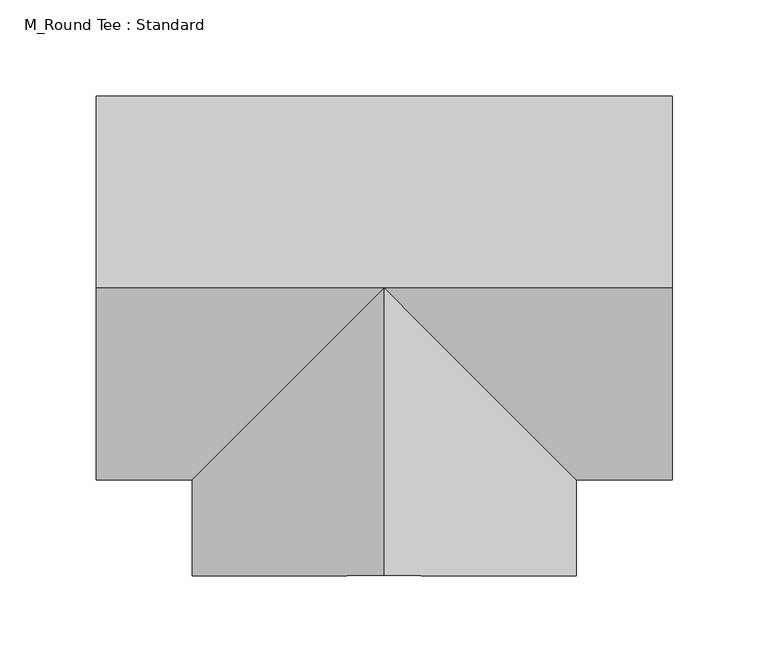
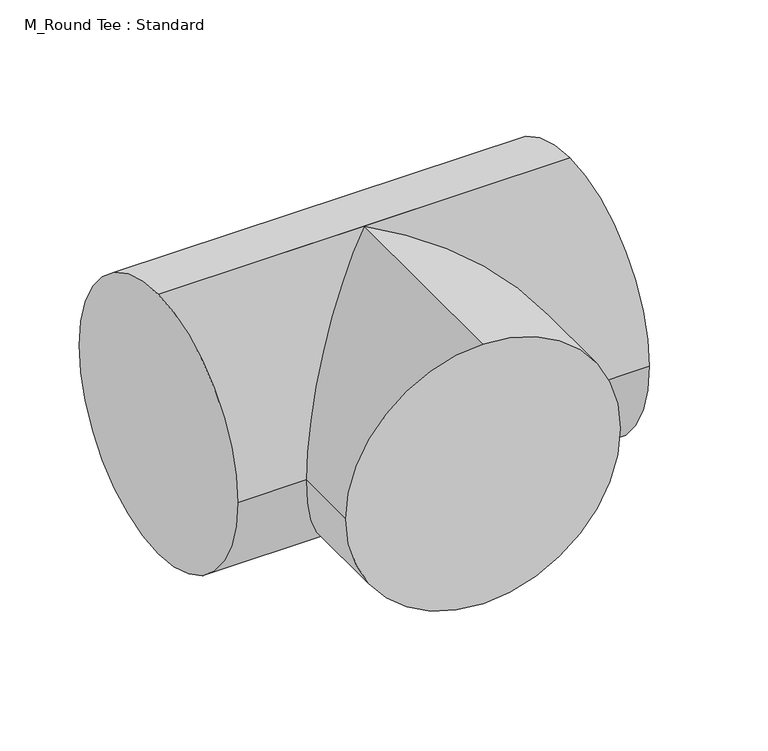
"""IFC4 building model written with IfcOpenShell, lengths in millimetres: duct fitting geometry, M_Round Tee : Standard."""

from ifc_helpers import new_model, si_unit, frame, origin, place, context, project, spatial, circle_curve, ellipse_curve, source, transform, mapped, element, save
from ifc_brep_helpers import plane_surface, cylinder_surface, advanced_brep


def m_round_tee_standard_d0ec91cd(model_context):
    return source(origin(), model_context, "Body", "AdvancedBrep", [
        advanced_brep(
        [(-150.0, 0.0, 100.0), (-150.0, 100.0, 0.0), (-150.0, 0.0, -100.0), (-150.0, -100.0, 0.0), (150.0, 0.0, 100.0), (150.0, -100.0, 0.0), (150.0, 0.0, -100.0), (150.0, 100.0, 0.0), (0.0, 0.0, 100.0), (0.0, 0.0, -100.0), (-100.0, -100.0, 0.0), (100.0, -100.0, 0.0), (0.0, -150.0, 100.0), (-100.0, -150.0, 0.0), (0.0, -150.0, -100.0), (100.0, -150.0, 0.0)],
        [
            (0, 1, circle_curve(frame((-150.0, 0.0, 0.0), z_axis=(-1.0, 0.0, 0.0), x_axis=(0.0, 1.0, 0.0)), 100.0)),
            (1, 2, circle_curve(frame((-150.0, 0.0, 0.0), z_axis=(-1.0, 0.0, 0.0), x_axis=(0.0, 1.0, 0.0)), 100.0)),
            (2, 3, circle_curve(frame((-150.0, 0.0, 0.0), z_axis=(-1.0, 0.0, 0.0), x_axis=(0.0, 1.0, 0.0)), 100.0)),
            (3, 0, circle_curve(frame((-150.0, 0.0, 0.0), z_axis=(-1.0, 0.0, 0.0), x_axis=(0.0, 1.0, 0.0)), 100.0)),
            (4, 5, circle_curve(frame((150.0, 0.0, 0.0), z_axis=(1.0, 0.0, 0.0), x_axis=(0.0, 1.0, 0.0)), 100.0)),
            (5, 6, circle_curve(frame((150.0, 0.0, 0.0), z_axis=(1.0, 0.0, 0.0), x_axis=(0.0, 1.0, 0.0)), 100.0)),
            (6, 7, circle_curve(frame((150.0, 0.0, 0.0), z_axis=(1.0, 0.0, 0.0), x_axis=(0.0, 1.0, 0.0)), 100.0)),
            (7, 4, circle_curve(frame((150.0, 0.0, 0.0), z_axis=(1.0, 0.0, 0.0), x_axis=(0.0, 1.0, 0.0)), 100.0)),
            (0, 8),
            (8, 4),
            (7, 1),
            (6, 9),
            (9, 2),
            (9, 10, ellipse_curve(frame((0.0, 0.0, 0.0), z_axis=(-0.7071067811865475, 0.7071067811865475, 0.0), x_axis=(-0.7071067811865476, -0.7071067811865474, 0.0)), 141.4213562, 100.0)),
            (10, 3),
            (5, 11),
            (11, 9, ellipse_curve(frame((0.0, 0.0, 0.0), z_axis=(0.7071067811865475, 0.7071067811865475, 0.0), x_axis=(-0.7071067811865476, 0.7071067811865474, 0.0)), 141.4213562, 100.0)),
            (10, 8, ellipse_curve(frame((0.0, 0.0, 0.0), z_axis=(-0.7071067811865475, 0.7071067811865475, 0.0), x_axis=(-0.7071067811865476, -0.7071067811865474, 0.0)), 141.4213562, 100.0)),
            (8, 11, ellipse_curve(frame((0.0, 0.0, 0.0), z_axis=(0.7071067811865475, 0.7071067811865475, 0.0), x_axis=(-0.7071067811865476, 0.7071067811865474, 0.0)), 141.4213562, 100.0)),
            (12, 13, circle_curve(frame((0.0, -150.0, 0.0), z_axis=(0.0, -1.0, 0.0), x_axis=(1.0, 0.0, 0.0)), 100.0)),
            (13, 14, circle_curve(frame((0.0, -150.0, 0.0), z_axis=(0.0, -1.0, 0.0), x_axis=(1.0, 0.0, 0.0)), 100.0)),
            (14, 15, circle_curve(frame((0.0, -150.0, 0.0), z_axis=(0.0, -1.0, 0.0), x_axis=(1.0, 0.0, 0.0)), 100.0)),
            (15, 12, circle_curve(frame((0.0, -150.0, 0.0), z_axis=(0.0, -1.0, 0.0), x_axis=(1.0, 0.0, 0.0)), 100.0)),
            (15, 11),
            (8, 12),
            (14, 9),
            (13, 10),
        ],
        [
            plane_surface(frame((-150.0, 0.0, 0.0), z_axis=(-1.0, 0.0, 0.0), x_axis=(0.0, 0.0, 1.0))),
            plane_surface(frame((150.0, 0.0, 0.0), z_axis=(1.0, 0.0, 0.0), x_axis=(0.0, 0.0, 1.0))),
            cylinder_surface(frame((-150.0, 0.0, 0.0), z_axis=(-1.0, 0.0, 0.0), x_axis=(0.0, 1.0, 0.0)), 100.0),
            plane_surface(frame((0.0, -150.0, 0.0), z_axis=(0.0, -1.0, 0.0), x_axis=(0.0, 0.0, 1.0))),
            cylinder_surface(frame((0.0, 0.0, 0.0), z_axis=(0.0, 1.0, 0.0), x_axis=(1.0, 0.0, 0.0)), 100.0),
        ],
        [
            (0, [[1, 2, 3, 4]]),
            (1, [[5, 6, 7, 8]]),
            (2, [[-1, 9, 10, -8, 11]]),
            (2, [[-2, -11, -7, 12, 13]]),
            (2, [[-3, -13, 14, 15]]),
            (2, [[-6, 16, 17, -12]]),
            (2, [[-4, -15, 18, -9]]),
            (2, [[-5, -10, 19, -16]]),
            (3, [[20, 21, 22, 23]]),
            (4, [[-23, 24, -19, 25]]),
            (4, [[-22, 26, -17, -24]]),
            (4, [[-21, 27, -14, -26]]),
            (4, [[-20, -25, -18, -27]]),
        ],
    ),
        advanced_brep(
        [(-150.0, 0.0, 100.0), (-150.0, 100.0, 0.0), (-150.0, 0.0, -100.0), (-150.0, -100.0, 0.0), (150.0, 0.0, 100.0), (150.0, -100.0, 0.0), (150.0, 0.0, -100.0), (150.0, 100.0, 0.0), (0.0, 0.0, 100.0), (0.0, 0.0, -100.0), (-100.0, -100.0, 0.0), (100.0, -100.0, 0.0), (0.0, -150.0, 100.0), (-100.0, -150.0, 0.0), (0.0, -150.0, -100.0), (100.0, -150.0, 0.0)],
        [
            (0, 1, circle_curve(frame((-150.0, 0.0, 0.0), z_axis=(-1.0, 0.0, 0.0), x_axis=(0.0, 1.0, 0.0)), 100.0)),
            (1, 2, circle_curve(frame((-150.0, 0.0, 0.0), z_axis=(-1.0, 0.0, 0.0), x_axis=(0.0, 1.0, 0.0)), 100.0)),
            (2, 3, circle_curve(frame((-150.0, 0.0, 0.0), z_axis=(-1.0, 0.0, 0.0), x_axis=(0.0, 1.0, 0.0)), 100.0)),
            (3, 0, circle_curve(frame((-150.0, 0.0, 0.0), z_axis=(-1.0, 0.0, 0.0), x_axis=(0.0, 1.0, 0.0)), 100.0)),
            (4, 5, circle_curve(frame((150.0, 0.0, 0.0), z_axis=(1.0, 0.0, 0.0), x_axis=(0.0, 1.0, 0.0)), 100.0)),
            (5, 6, circle_curve(frame((150.0, 0.0, 0.0), z_axis=(1.0, 0.0, 0.0), x_axis=(0.0, 1.0, 0.0)), 100.0)),
            (6, 7, circle_curve(frame((150.0, 0.0, 0.0), z_axis=(1.0, 0.0, 0.0), x_axis=(0.0, 1.0, 0.0)), 100.0)),
            (7, 4, circle_curve(frame((150.0, 0.0, 0.0), z_axis=(1.0, 0.0, 0.0), x_axis=(0.0, 1.0, 0.0)), 100.0)),
            (0, 8),
            (8, 4),
            (7, 1),
            (6, 9),
            (9, 2),
            (9, 10, ellipse_curve(frame((0.0, 0.0, 0.0), z_axis=(-0.7071067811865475, 0.7071067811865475, 0.0), x_axis=(-0.7071067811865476, -0.7071067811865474, 0.0)), 141.4213562, 100.0)),
            (10, 3),
            (5, 11),
            (11, 9, ellipse_curve(frame((0.0, 0.0, 0.0), z_axis=(0.7071067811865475, 0.7071067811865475, 0.0), x_axis=(-0.7071067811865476, 0.7071067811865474, 0.0)), 141.4213562, 100.0)),
            (10, 8, ellipse_curve(frame((0.0, 0.0, 0.0), z_axis=(-0.7071067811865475, 0.7071067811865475, 0.0), x_axis=(-0.7071067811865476, -0.7071067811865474, 0.0)), 141.4213562, 100.0)),
            (8, 11, ellipse_curve(frame((0.0, 0.0, 0.0), z_axis=(0.7071067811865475, 0.7071067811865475, 0.0), x_axis=(-0.7071067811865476, 0.7071067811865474, 0.0)), 141.4213562, 100.0)),
            (12, 13, circle_curve(frame((0.0, -150.0, 0.0), z_axis=(0.0, -1.0, 0.0), x_axis=(1.0, 0.0, 0.0)), 100.0)),
            (13, 14, circle_curve(frame((0.0, -150.0, 0.0), z_axis=(0.0, -1.0, 0.0), x_axis=(1.0, 0.0, 0.0)), 100.0)),
            (14, 15, circle_curve(frame((0.0, -150.0, 0.0), z_axis=(0.0, -1.0, 0.0), x_axis=(1.0, 0.0, 0.0)), 100.0)),
            (15, 12, circle_curve(frame((0.0, -150.0, 0.0), z_axis=(0.0, -1.0, 0.0), x_axis=(1.0, 0.0, 0.0)), 100.0)),
            (15, 11),
            (8, 12),
            (14, 9),
            (13, 10),
        ],
        [
            plane_surface(frame((-150.0, 0.0, 0.0), z_axis=(-1.0, 0.0, 0.0), x_axis=(0.0, 0.0, 1.0))),
            plane_surface(frame((150.0, 0.0, 0.0), z_axis=(1.0, 0.0, 0.0), x_axis=(0.0, 0.0, 1.0))),
            cylinder_surface(frame((-150.0, 0.0, 0.0), z_axis=(-1.0, 0.0, 0.0), x_axis=(0.0, 1.0, 0.0)), 100.0),
            plane_surface(frame((0.0, -150.0, 0.0), z_axis=(0.0, -1.0, 0.0), x_axis=(0.0, 0.0, 1.0))),
            cylinder_surface(frame((0.0, 0.0, 0.0), z_axis=(0.0, 1.0, 0.0), x_axis=(1.0, 0.0, 0.0)), 100.0),
        ],
        [
            (0, [[1, 2, 3, 4]]),
            (1, [[5, 6, 7, 8]]),
            (2, [[-1, 9, 10, -8, 11]]),
            (2, [[-2, -11, -7, 12, 13]]),
            (2, [[-3, -13, 14, 15]]),
            (2, [[-6, 16, 17, -12]]),
            (2, [[-4, -15, 18, -9]]),
            (2, [[-5, -10, 19, -16]]),
            (3, [[20, 21, 22, 23]]),
            (4, [[-23, 24, -19, 25]]),
            (4, [[-22, 26, -17, -24]]),
            (4, [[-21, 27, -14, -26]]),
            (4, [[-20, -25, -18, -27]]),
        ],
    ),
        advanced_brep(
        [(0.0, -150.0, 100.0), (-100.0, -150.0, 0.0), (0.0, -150.0, -100.0), (100.0, -150.0, 0.0), (100.0, -100.0, 0.0), (0.0, 0.0, 100.0), (0.0, 0.0, -100.0), (-100.0, -100.0, 0.0), (-150.0, 0.0, 100.0), (-150.0, 100.0, 0.0), (-150.0, 0.0, -100.0), (-150.0, -100.0, 0.0), (150.0, 0.0, 100.0), (150.0, -100.0, 0.0), (150.0, 0.0, -100.0), (150.0, 100.0, 0.0)],
        [
            (0, 1, circle_curve(frame((0.0, -150.0, 0.0), z_axis=(0.0, -1.0, 0.0), x_axis=(1.0, 0.0, 0.0)), 100.0)),
            (1, 2, circle_curve(frame((0.0, -150.0, 0.0), z_axis=(0.0, -1.0, 0.0), x_axis=(1.0, 0.0, 0.0)), 100.0)),
            (2, 3, circle_curve(frame((0.0, -150.0, 0.0), z_axis=(0.0, -1.0, 0.0), x_axis=(1.0, 0.0, 0.0)), 100.0)),
            (3, 0, circle_curve(frame((0.0, -150.0, 0.0), z_axis=(0.0, -1.0, 0.0), x_axis=(1.0, 0.0, 0.0)), 100.0)),
            (3, 4),
            (4, 5, ellipse_curve(frame((0.0, 0.0, 0.0), z_axis=(-0.7071067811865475, -0.7071067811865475, 0.0), x_axis=(-0.7071067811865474, 0.7071067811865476, 0.0)), 141.4213562, 100.0)),
            (5, 0),
            (2, 6),
            (6, 4, ellipse_curve(frame((0.0, 0.0, 0.0), z_axis=(-0.7071067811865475, -0.7071067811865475, 0.0), x_axis=(-0.7071067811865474, 0.7071067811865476, 0.0)), 141.4213562, 100.0)),
            (1, 7),
            (7, 6, ellipse_curve(frame((0.0, 0.0, 0.0), z_axis=(0.7071067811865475, -0.7071067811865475, 0.0), x_axis=(0.7071067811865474, 0.7071067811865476, 0.0)), 141.4213562, 100.0)),
            (5, 7, ellipse_curve(frame((0.0, 0.0, 0.0), z_axis=(0.7071067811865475, -0.7071067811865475, 0.0), x_axis=(0.7071067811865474, 0.7071067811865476, 0.0)), 141.4213562, 100.0)),
            (8, 9, circle_curve(frame((-150.0, 0.0, 0.0), z_axis=(-1.0, 0.0, 0.0), x_axis=(0.0, 1.0, 0.0)), 100.0)),
            (9, 10, circle_curve(frame((-150.0, 0.0, 0.0), z_axis=(-1.0, 0.0, 0.0), x_axis=(0.0, 1.0, 0.0)), 100.0)),
            (10, 11, circle_curve(frame((-150.0, 0.0, 0.0), z_axis=(-1.0, 0.0, 0.0), x_axis=(0.0, 1.0, 0.0)), 100.0)),
            (11, 8, circle_curve(frame((-150.0, 0.0, 0.0), z_axis=(-1.0, 0.0, 0.0), x_axis=(0.0, 1.0, 0.0)), 100.0)),
            (12, 13, circle_curve(frame((150.0, 0.0, 0.0), z_axis=(1.0, 0.0, 0.0), x_axis=(0.0, 1.0, 0.0)), 100.0)),
            (13, 14, circle_curve(frame((150.0, 0.0, 0.0), z_axis=(1.0, 0.0, 0.0), x_axis=(0.0, 1.0, 0.0)), 100.0)),
            (14, 15, circle_curve(frame((150.0, 0.0, 0.0), z_axis=(1.0, 0.0, 0.0), x_axis=(0.0, 1.0, 0.0)), 100.0)),
            (15, 12, circle_curve(frame((150.0, 0.0, 0.0), z_axis=(1.0, 0.0, 0.0), x_axis=(0.0, 1.0, 0.0)), 100.0)),
            (8, 5),
            (5, 12),
            (15, 9),
            (14, 6),
            (6, 10),
            (7, 11),
            (13, 4),
        ],
        [
            plane_surface(frame((0.0, -150.0, 0.0), z_axis=(0.0, -1.0, 0.0), x_axis=(0.0, 0.0, 1.0))),
            cylinder_surface(frame((0.0, 0.0, 0.0), z_axis=(0.0, 1.0, 0.0), x_axis=(1.0, 0.0, 0.0)), 100.0),
            plane_surface(frame((-150.0, 0.0, 0.0), z_axis=(-1.0, 0.0, 0.0), x_axis=(0.0, 0.0, 1.0))),
            plane_surface(frame((150.0, 0.0, 0.0), z_axis=(1.0, 0.0, 0.0), x_axis=(0.0, 0.0, 1.0))),
            cylinder_surface(frame((-150.0, 0.0, 0.0), z_axis=(-1.0, 0.0, 0.0), x_axis=(0.0, 1.0, 0.0)), 100.0),
        ],
        [
            (0, [[1, 2, 3, 4]]),
            (1, [[-4, 5, 6, 7]]),
            (1, [[-3, 8, 9, -5]]),
            (1, [[-2, 10, 11, -8]]),
            (1, [[-1, -7, 12, -10]]),
            (2, [[13, 14, 15, 16]]),
            (3, [[17, 18, 19, 20]]),
            (4, [[-13, 21, 22, -20, 23]]),
            (4, [[-14, -23, -19, 24, 25]]),
            (4, [[-15, -25, -11, 26]]),
            (4, [[-18, 27, -9, -24]]),
            (4, [[-16, -26, -12, -21]]),
            (4, [[-17, -22, -6, -27]]),
        ],
    ),
    ])


if __name__ == "__main__":
    model = new_model("IFC4")
    model_context = context("Model", 3, world=origin())
    ifc_project = project(units=[si_unit("LENGTHUNIT", "METRE", prefix="MILLI")], contexts=[model_context])
    site = spatial("IfcSite", under=ifc_project)
    building = spatial("IfcBuilding", under=site)
    placement = place(None, origin())
    m_round_tee_standard_shape = m_round_tee_standard_d0ec91cd(model_context)
    element("IfcDuctFitting", 1, ObjectType="M_Round Tee : Standard", at=placement, inside=building, context=model_context, shape_type="MappedRepresentation", body=[
        mapped(m_round_tee_standard_shape, transform((0.0, 0.0, 0.0), x_axis=(1.0, 0.0, 0.0), y_axis=(0.0, 1.0, 0.0), z_axis=(0.0, 0.0, 1.0))),
    ])
    save(model, "model.ifc")
